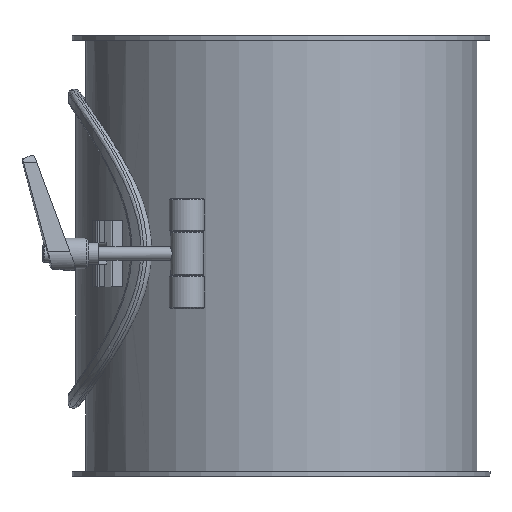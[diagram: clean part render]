
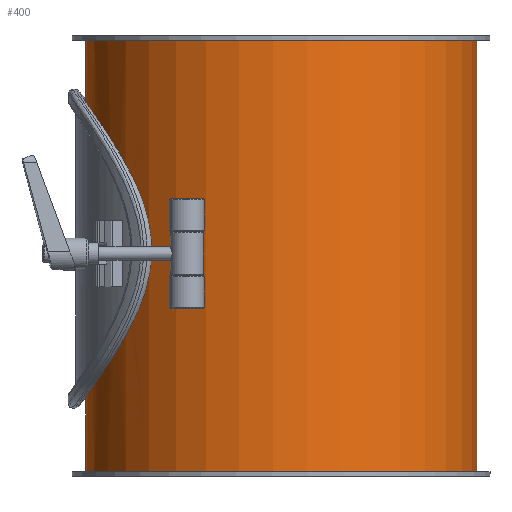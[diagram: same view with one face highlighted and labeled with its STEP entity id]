
A CAD part, front view. The second image highlights one B-rep face of the part: STEP entity #400.
In plain terms, the highlighted cylindrical face has radius 89 mm (diameter 178 mm), a full revolution.
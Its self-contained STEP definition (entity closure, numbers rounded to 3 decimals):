
#185=CARTESIAN_POINT('',(-67.932,-57.5,100.));
#186=VERTEX_POINT('',#185);
#187=CARTESIAN_POINT('',(-67.932,-57.5,100.));
#188=CARTESIAN_POINT('',(-67.932,-57.5,96.234));
#189=CARTESIAN_POINT('',(-68.255,-57.125,92.402));
#190=CARTESIAN_POINT('',(-69.496,-55.609,84.879));
#191=CARTESIAN_POINT('',(-70.41,-54.468,81.186));
#192=CARTESIAN_POINT('',(-72.603,-51.51,74.164));
#193=CARTESIAN_POINT('',(-73.879,-49.689,70.826));
#194=CARTESIAN_POINT('',(-76.521,-45.515,64.666));
#195=CARTESIAN_POINT('',(-77.885,-43.161,61.844));
#196=CARTESIAN_POINT('',(-80.443,-38.179,56.862));
#197=CARTESIAN_POINT('',(-81.737,-35.369,54.512));
#198=CARTESIAN_POINT('',(-84.136,-29.208,50.331));
#199=CARTESIAN_POINT('',(-85.24,-25.855,48.498));
#200=CARTESIAN_POINT('',(-87.068,-18.799,45.525));
#201=CARTESIAN_POINT('',(-87.794,-15.087,44.382));
#202=CARTESIAN_POINT('',(-88.76,-7.553,42.869));
#203=CARTESIAN_POINT('',(-89.0,-3.73,42.5));
#204=CARTESIAN_POINT('',(-89.0,3.73,42.5));
#205=CARTESIAN_POINT('',(-88.76,7.553,42.869));
#206=CARTESIAN_POINT('',(-87.794,15.087,44.382));
#207=CARTESIAN_POINT('',(-87.068,18.799,45.525));
#208=CARTESIAN_POINT('',(-85.24,25.855,48.498));
#209=CARTESIAN_POINT('',(-84.136,29.208,50.331));
#210=CARTESIAN_POINT('',(-81.737,35.369,54.512));
#211=CARTESIAN_POINT('',(-80.443,38.179,56.862));
#212=CARTESIAN_POINT('',(-77.885,43.161,61.844));
#213=CARTESIAN_POINT('',(-76.521,45.515,64.666));
#214=CARTESIAN_POINT('',(-73.879,49.689,70.826));
#215=CARTESIAN_POINT('',(-72.603,51.51,74.164));
#216=CARTESIAN_POINT('',(-70.41,54.468,81.186));
#217=CARTESIAN_POINT('',(-69.496,55.609,84.879));
#218=CARTESIAN_POINT('',(-68.255,57.125,92.402));
#219=CARTESIAN_POINT('',(-67.932,57.5,96.234));
#220=CARTESIAN_POINT('',(-67.932,57.5,103.766));
#221=CARTESIAN_POINT('',(-68.255,57.125,107.598));
#222=CARTESIAN_POINT('',(-69.496,55.609,115.121));
#223=CARTESIAN_POINT('',(-70.41,54.468,118.814));
#224=CARTESIAN_POINT('',(-72.603,51.51,125.836));
#225=CARTESIAN_POINT('',(-73.879,49.689,129.174));
#226=CARTESIAN_POINT('',(-76.521,45.515,135.334));
#227=CARTESIAN_POINT('',(-77.885,43.161,138.156));
#228=CARTESIAN_POINT('',(-80.443,38.179,143.138));
#229=CARTESIAN_POINT('',(-81.737,35.369,145.488));
#230=CARTESIAN_POINT('',(-84.136,29.208,149.669));
#231=CARTESIAN_POINT('',(-85.24,25.855,151.502));
#232=CARTESIAN_POINT('',(-87.068,18.799,154.475));
#233=CARTESIAN_POINT('',(-87.794,15.087,155.618));
#234=CARTESIAN_POINT('',(-88.76,7.553,157.131));
#235=CARTESIAN_POINT('',(-89.0,3.73,157.5));
#236=CARTESIAN_POINT('',(-89.0,-3.73,157.5));
#237=CARTESIAN_POINT('',(-88.76,-7.553,157.131));
#238=CARTESIAN_POINT('',(-87.794,-15.087,155.618));
#239=CARTESIAN_POINT('',(-87.068,-18.799,154.475));
#240=CARTESIAN_POINT('',(-85.24,-25.855,151.502));
#241=CARTESIAN_POINT('',(-84.136,-29.208,149.669));
#242=CARTESIAN_POINT('',(-81.737,-35.369,145.488));
#243=CARTESIAN_POINT('',(-80.443,-38.179,143.138));
#244=CARTESIAN_POINT('',(-77.885,-43.161,138.156));
#245=CARTESIAN_POINT('',(-76.521,-45.515,135.334));
#246=CARTESIAN_POINT('',(-73.879,-49.689,129.174));
#247=CARTESIAN_POINT('',(-72.603,-51.51,125.836));
#248=CARTESIAN_POINT('',(-70.41,-54.468,118.814));
#249=CARTESIAN_POINT('',(-69.496,-55.609,115.121));
#250=CARTESIAN_POINT('',(-68.255,-57.125,107.598));
#251=CARTESIAN_POINT('',(-67.932,-57.5,103.766));
#252=CARTESIAN_POINT('',(-67.932,-57.5,100.0));
#253=B_SPLINE_CURVE_WITH_KNOTS('',3,(#187,#188,#189,#190,#191,#192,#193,#194,#195,#196,#197,#198,#199,#200,#201,#202,#203,#204,#205,#206,#207,#208,#209,#210,#211,#212,#213,#214,#215,#216,#217,#218,#219,#220,#221,#222,#223,#224,#225,#226,#227,#228,#229,#230,#231,#232,#233,#234,#235,#236,#237,#238,#239,#240,#241,#242,#243,#244,#245,#246,#247,#248,#249,#250,#251,#252),.UNSPECIFIED.,.T.,.U.,(4,2,2,2,2,2,2,2,2,2,2,2,2,2,2,2,2,2,2,2,2,2,2,2,2,2,2,2,2,2,2,2,4),(0.0,1.13,2.259,3.389,4.519,5.638,6.757,7.876,8.995,10.114,11.234,12.353,13.472,14.602,15.731,16.861,17.991,19.12,20.25,21.38,22.509,23.628,24.748,25.867,26.986,28.105,29.224,30.343,31.462,32.592,33.722,34.851,35.981),.UNSPECIFIED.);
#254=EDGE_CURVE('',#186,#186,#253,.T.);
#295=CARTESIAN_POINT('',(89.0,0.,198.0));
#296=VERTEX_POINT('',#295);
#297=CARTESIAN_POINT('',(0.0,0.0,198.0));
#298=DIRECTION('',(0.0,0.0,-1.0));
#299=DIRECTION('',(-1.0,0.0,0.0));
#300=AXIS2_PLACEMENT_3D('',#297,#298,#299);
#301=CIRCLE('',#300,89.0);
#302=EDGE_CURVE('',#296,#296,#301,.T.);
#343=CARTESIAN_POINT('',(-89.0,0.,2.0));
#344=VERTEX_POINT('',#343);
#345=CARTESIAN_POINT('',(0.0,0.0,2.0));
#346=DIRECTION('',(0.0,0.0,1.0));
#347=DIRECTION('',(-1.0,0.0,0.0));
#348=AXIS2_PLACEMENT_3D('',#345,#346,#347);
#349=CIRCLE('',#348,89.0);
#350=EDGE_CURVE('',#344,#344,#349,.T.);
#386=CARTESIAN_POINT('',(0.0,0.0,0.0));
#387=DIRECTION('',(0.0,0.0,1.0));
#388=DIRECTION('',(-1.0,0.0,0.0));
#389=AXIS2_PLACEMENT_3D('',#386,#387,#388);
#390=CYLINDRICAL_SURFACE('',#389,89.0);
#391=ORIENTED_EDGE('',*,*,#302,.T.);
#392=EDGE_LOOP('',(#391));
#393=FACE_OUTER_BOUND('',#392,.T.);
#394=ORIENTED_EDGE('',*,*,#254,.T.);
#395=EDGE_LOOP('',(#394));
#396=FACE_BOUND('',#395,.T.);
#397=ORIENTED_EDGE('',*,*,#350,.T.);
#398=EDGE_LOOP('',(#397));
#399=FACE_BOUND('',#398,.T.);
#400=ADVANCED_FACE('',(#393,#396,#399),#390,.T.);
